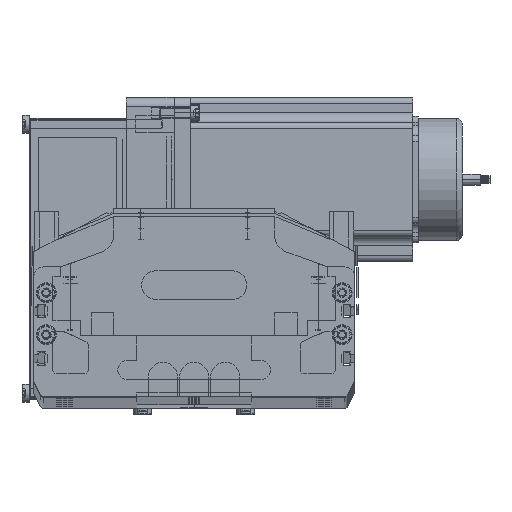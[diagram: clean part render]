
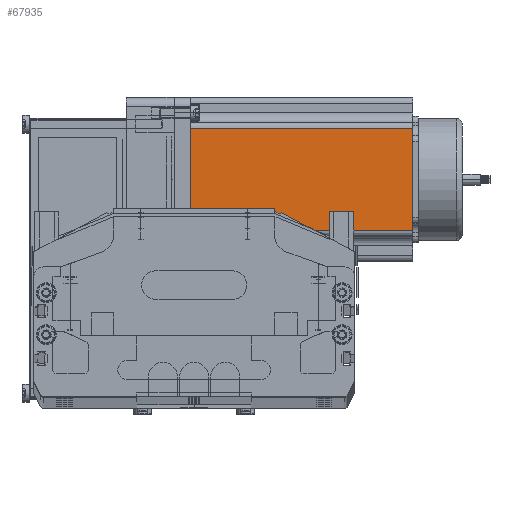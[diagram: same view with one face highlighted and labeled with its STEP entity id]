
A CAD part, top view. The second image highlights one B-rep face of the part: STEP entity #67935.
In plain terms, the highlighted planar face has unit normal (0, 0, 1) as drawn and (0, -1, 0) by its records, which use the part's own axes.
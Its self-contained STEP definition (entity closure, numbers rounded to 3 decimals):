
#62151 = AXIS2_PLACEMENT_3D ( 'NONE', #62244, #62243, #62235 ) ;
#62198 = CARTESIAN_POINT ( 'NONE',  ( 69.74, 0., 0. ) ) ;
#62218 = PLANE ( 'NONE',  #62151 ) ;
#62221 = CARTESIAN_POINT ( 'NONE',  ( 16.16, 0., 0. ) ) ;
#62233 = DIRECTION ( 'NONE',  ( 1., 0., 0. ) ) ;
#62235 = DIRECTION ( 'NONE',  ( 0., 0., 1. ) ) ;
#62239 = VECTOR ( 'NONE', #62233, 1000. ) ;
#62240 = CARTESIAN_POINT ( 'NONE',  ( 0., 0., 0. ) ) ;
#62241 = LINE ( 'NONE', #62240, #62239 ) ;
#62242 = FACE_OUTER_BOUND ( 'NONE', #68175, .T. ) ;
#62243 = DIRECTION ( 'NONE',  ( 0., 1., 0. ) ) ;
#62244 = CARTESIAN_POINT ( 'NONE',  ( 0., 0., 116.5 ) ) ;
#62284 = VECTOR ( 'NONE', #62360, 1000. ) ;
#62285 = CARTESIAN_POINT ( 'NONE',  ( 0., 0., 116.5 ) ) ;
#62286 = LINE ( 'NONE', #62285, #62284 ) ;
#62355 = DIRECTION ( 'NONE',  ( 0., 0., 1. ) ) ;
#62356 = VECTOR ( 'NONE', #62355, 1000. ) ;
#62357 = CARTESIAN_POINT ( 'NONE',  ( 69.74, 0., 116.5 ) ) ;
#62358 = LINE ( 'NONE', #62357, #62356 ) ;
#62359 = CARTESIAN_POINT ( 'NONE',  ( 16.16, 0., 116.5 ) ) ;
#62360 = DIRECTION ( 'NONE',  ( 1., 0., 0. ) ) ;
#62729 = CARTESIAN_POINT ( 'NONE',  ( 69.74, 0., 116.5 ) ) ;
#62915 = CARTESIAN_POINT ( 'NONE',  ( 16.16, 0., 116.5 ) ) ;
#62916 = LINE ( 'NONE', #62915, #62957 ) ;
#62956 = DIRECTION ( 'NONE',  ( 0., 0., -1. ) ) ;
#62957 = VECTOR ( 'NONE', #62956, 1000. ) ;
#67932 = VERTEX_POINT ( 'NONE', #62198 ) ;
#67935 = ADVANCED_FACE ( 'NONE', ( #62242 ), #62218, .F. ) ;
#67937 = ORIENTED_EDGE ( 'NONE', *, *, #67939, .T. ) ;
#67939 = EDGE_CURVE ( 'NONE', #67995, #67932, #62241, .T. ) ;
#67995 = VERTEX_POINT ( 'NONE', #62221 ) ;
#68089 = ORIENTED_EDGE ( 'NONE', *, *, #68093, .T. ) ;
#68091 = EDGE_CURVE ( 'NONE', #68096, #68574, #62286, .T. ) ;
#68093 = EDGE_CURVE ( 'NONE', #67932, #68574, #62358, .T. ) ;
#68096 = VERTEX_POINT ( 'NONE', #62359 ) ;
#68097 = ORIENTED_EDGE ( 'NONE', *, *, #68869, .T. ) ;
#68175 = EDGE_LOOP ( 'NONE', ( #67937, #68089, #68766, #68097 ) ) ;
#68574 = VERTEX_POINT ( 'NONE', #62729 ) ;
#68766 = ORIENTED_EDGE ( 'NONE', *, *, #68091, .F. ) ;
#68869 = EDGE_CURVE ( 'NONE', #68096, #67995, #62916, .T. ) ;
